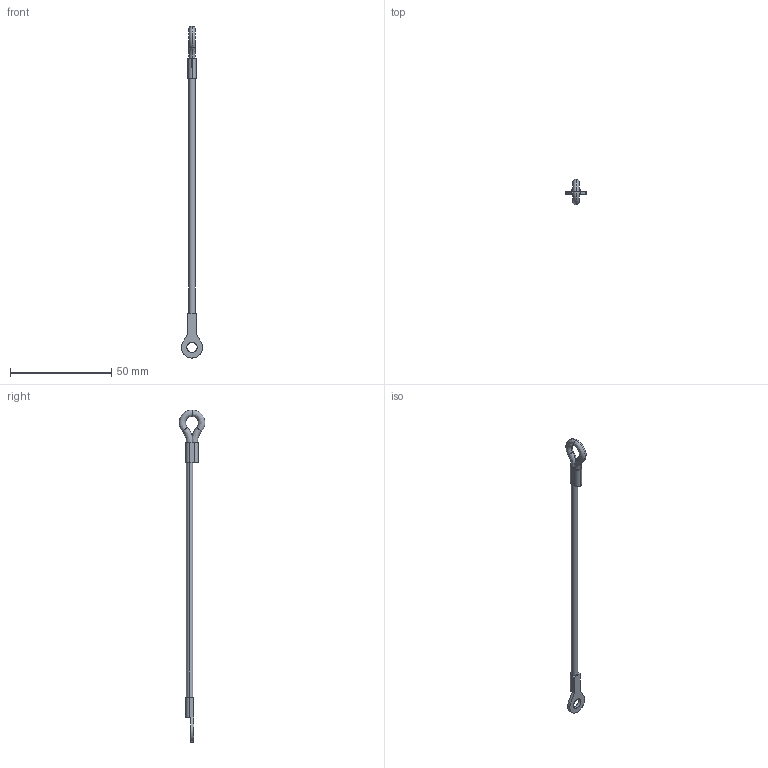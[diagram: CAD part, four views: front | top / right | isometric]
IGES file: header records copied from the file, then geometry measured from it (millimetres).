
Start section: SolidWorks IGES file using analytic representation for surfaces
Global section: file name: C:\Users\ianosborn\Desktop\LA1075_v2\LA1075_v2_20260320_IGES\LA1075.I06-152C1.igs; native system: SolidWorks 2019; preprocessor: SolidWorks 2019; author: IanOsborn; date: 260323.164333; units: millimetre
Bounding box: 10.41 x 12.75 x 164 mm (x, y, z)
Surface area: 2079.1 mm2 (no closed solid volume)
Topology: 0 solids, 0 shells, 30 faces, 460 edges, 460 vertices
Faces by surface type: bspline 20, revolution 10
